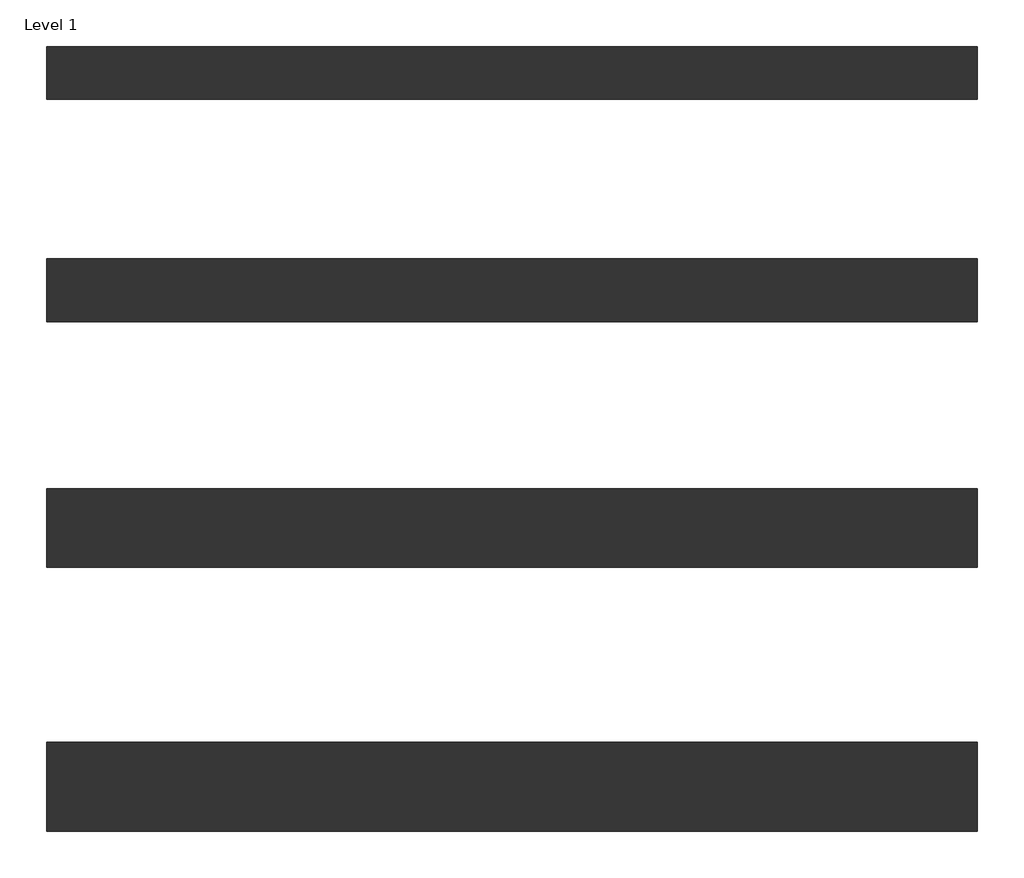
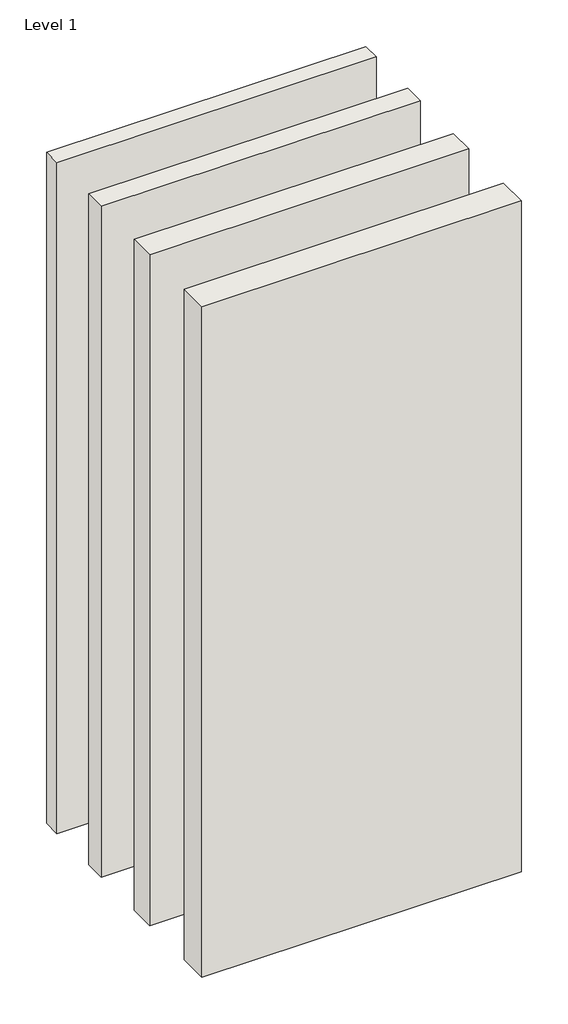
# One storey: 4 walls.
"""IFC4 building model written with IfcOpenShell, lengths in millimetres."""

from ifc_helpers import new_model, si_unit, origin, origin_with_axes, place, context, project, spatial, polyline, outline, extrude, element, save

model = new_model("IFC4")

# Units and contexts
model_context = context("Model", 3, world=origin())
ifc_project = project(units=[si_unit("LENGTHUNIT", "METRE", prefix="MILLI")], contexts=[model_context])

# Site, building, storey
site = spatial("IfcSite", under=ifc_project)
building = spatial("IfcBuilding", under=site)
storey = spatial("IfcBuildingStorey", under=building, Name="Level 1", Elevation=0.0)

# Walls
placement = place(None, origin())
element("IfcWall", 1, ObjectType="Interior-Timber Frame-Single Stud-CSR2070-102mm", at=placement, inside=storey, context=model_context, shape_type="SweptSolid", body=[
    extrude(outline(polyline([(-81.5797448, -2804.6481192), (1718.4202552, -2804.6481192), (1718.4202552, -2906.6481192), (-81.5797448, -2906.6481192), (-81.5797448, -2804.6481192)])), origin_with_axes(), (0.0, 0.0, 1.0), 4000.0),
])
element("IfcWall", 2, ObjectType="Interior-Timber Frame-Single Stud-CSR2070-122mm", at=placement, inside=storey, context=model_context, shape_type="SweptSolid", body=[
    extrude(outline(polyline([(-81.5797448, -3214.6481192), (1718.4202552, -3214.6481192), (1718.4202552, -3336.6481192), (-81.5797448, -3336.6481192), (-81.5797448, -3214.6481192)])), origin_with_axes(), (0.0, 0.0, 1.0), 4000.0),
])
element("IfcWall", 3, ObjectType="Interior-Timber Frame-Single Stud-CSR2070-152mm", at=placement, inside=storey, context=model_context, shape_type="SweptSolid", body=[
    extrude(outline(polyline([(-81.5797448, -3659.6481192), (1718.4202552, -3659.6481192), (1718.4202552, -3811.6481192), (-81.5797448, -3811.6481192), (-81.5797448, -3659.6481192)])), origin_with_axes(), (0.0, 0.0, 1.0), 4000.0),
])
element("IfcWall", 4, ObjectType="Interior-Timber Frame-Single Stud-CSR355-172mm", at=placement, inside=storey, context=model_context, shape_type="SweptSolid", body=[
    extrude(outline(polyline([(-81.5797448, -4149.6481192), (1718.4202552, -4149.6481192), (1718.4202552, -4321.6481192), (-81.5797448, -4321.6481192), (-81.5797448, -4149.6481192)])), origin_with_axes(), (0.0, 0.0, 1.0), 4000.0),
])

save(model, "model.ifc")
